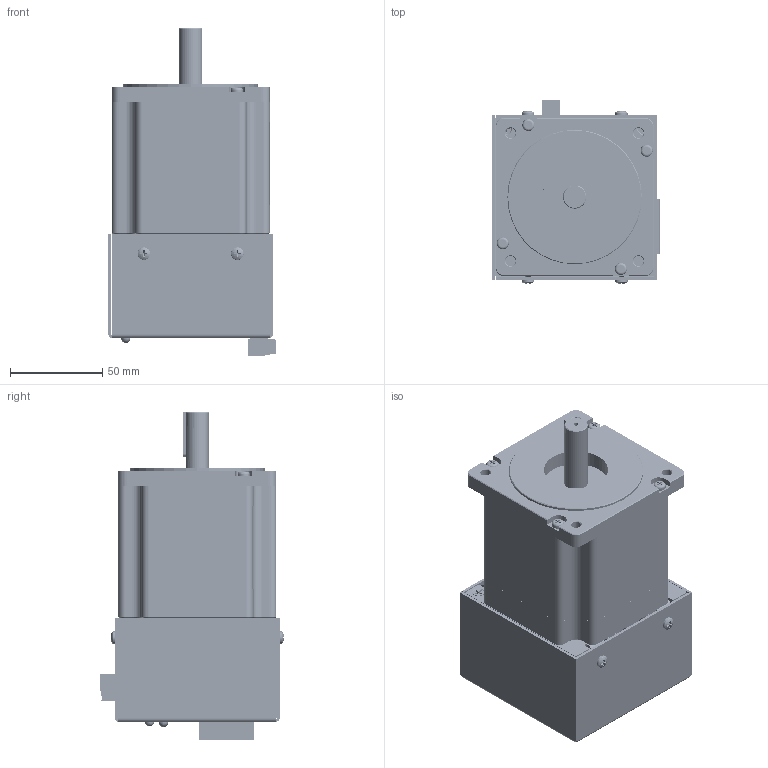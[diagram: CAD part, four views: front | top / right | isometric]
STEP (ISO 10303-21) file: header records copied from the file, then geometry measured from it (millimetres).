
FILE_DESCRIPTION (( 'STEP AP214' ), '1' );
FILE_NAME ('34MD112S.STEP', '2009-08-18T16:07:35', ( 'Tim Raines' ), ( 'Anaheim Automation' ), 'SwSTEP 2.0', 'SolidWorks 2009', '' );
FILE_SCHEMA (( 'AUTOMOTIVE_DESIGN' ));
Length unit declared in the file: millimetre
Products named in the file (38): Pan Cross Head_AI_CR-PHMS 0.112-40x0.25x0.25-S; WSH-KE3049; STD-63212H-M-F_STD-63212H; Standoff, 6-32x.250_STD-63212H; CAP-0221; TRS-IRFB4710PBF; 1757475; Standoff, 6-32x.250_STD-6321.0H; CON-0069; Cover, 34MD Series; 1755558; CON-0068; 1754520; Pan Cross Head_AI_CR-PHMS 0.138-32x0.25x0.25-S; 1754449; POT-PT10LV10K; LED-SPR5731_LED-SPR5731-YEL; LED-LTM Series_LED-LTM250; CON-929834-01-03; AA4810APCB; AA4810-1PCB; CON-0050; 34MD112S; CON-6404284; 34YXXXS-LW4-01 for 34MD Series_34Y112S-LW8; 34YXXXS-LW4-01 with connector_34Y112S-LW4-01; Socket Head Cap Screw_AM_B18.3.1M - 4 x 0.7 x 8 Hex SHCS -- 8SHX; Flat Head Screw_AI_CR-FHMS 0.138-32x0.375x0.375-S; Base Plate, 34MD Series; Standoff, 6-32x.250, ROUND_6-32 x .250; AA4811BPCB; AA4811B-1PCB; RES-3W-.05; Heat Sink, 34MD Series; Pan Cross Head_AI_CR-PHMS 0.138-32x0.5x0.5-S; LED-SPR5731_LED-SPR5731-GRN; LED-LTM Series_LED-LTM380; LED-LTM Series_LED-LTM420
Assembly tree (85 placements, depth 3):
  34MD112S
    Base Plate, 34MD Series
    34YXXXS-LW4-01 with connector_34Y112S-LW4-01
      34YXXXS-LW4-01 for 34MD Series_34Y112S-LW8
      CON-6404284
    1754449
    Socket Head Cap Screw_AM_B18.3.1M - 4 x 0.7 x 8 Hex SHCS -- 8SHX  x4
    Pan Cross Head_AI_CR-PHMS 0.138-32x0.25x0.25-S  x8
    Flat Head Screw_AI_CR-FHMS 0.138-32x0.375x0.375-S  x4
    1754520
    AA4811B-1PCB
      TRS-IRFB4710PBF  x9
      Pan Cross Head_AI_CR-PHMS 0.112-40x0.25x0.25-S  x9
      RES-3W-.05  x4
      CAP-0221  x2
      WSH-KE3049  x9
      LED-SPR5731_LED-SPR5731-GRN
      STD-63212H-M-F_STD-63212H  x2
      Standoff, 6-32x.250_STD-6321.0H  x2
      CON-0050
      Standoff, 6-32x.250, ROUND_6-32 x .250  x2
      AA4811BPCB
      Pan Cross Head_AI_CR-PHMS 0.138-32x0.25x0.25-S  x2
      Standoff, 6-32x.250_STD-63212H  x2
      CON-0069
      LED-LTM Series_LED-LTM380
      Heat Sink, 34MD Series
      LED-LTM Series_LED-LTM420
      Pan Cross Head_AI_CR-PHMS 0.138-32x0.5x0.5-S  x2
      1757475
    Cover, 34MD Series
    AA4810-1PCB
      LED-LTM Series_LED-LTM250
      CON-929834-01-03
      1755558
      POT-PT10LV10K
      CON-0068
      LED-SPR5731_LED-SPR5731-YEL
      AA4810APCB
Bounding box: 90.9 x 100.05 x 178.11 mm (x, y, z)
Volume: 669692.2 mm3; surface area: 183442.1 mm2
Topology: 82 solids, 82 shells, 7844 faces, 19743 edges, 12467 vertices
Faces by surface type: plane 4215, cylinder 1579, cone 1337, bspline 562, torus 107, sphere 44
Entity records: 237301 total; most frequent: CARTESIAN_POINT 61799, ORIENTED_EDGE 26286, DIRECTION 23806, EDGE_CURVE 13143, LINE 9448, VECTOR 9448, VERTEX_POINT 8390, AXIS2_PLACEMENT_3D 7179
